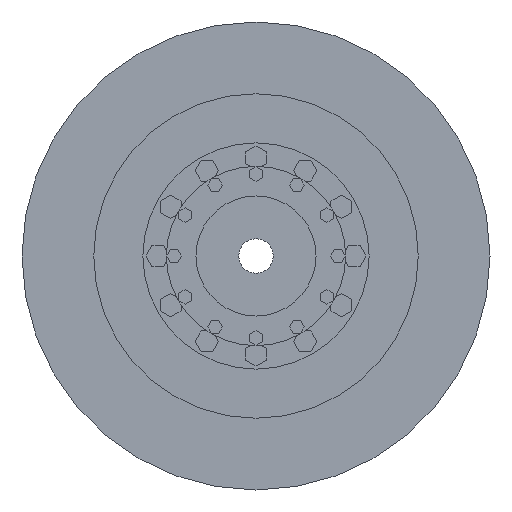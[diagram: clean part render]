
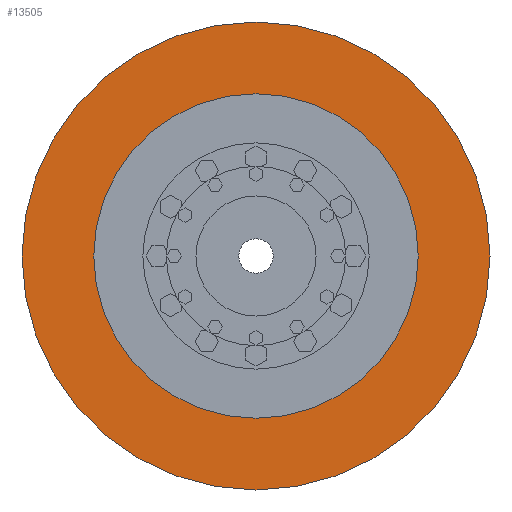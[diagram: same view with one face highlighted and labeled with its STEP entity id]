
A CAD part, left-side view. The second image highlights one B-rep face of the part: STEP entity #13505.
In plain terms, the highlighted planar face has unit normal (-1, 0, 0).
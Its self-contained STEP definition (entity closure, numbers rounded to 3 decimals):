
#13302=CARTESIAN_POINT('',(-37.,0.,0.));
#13303=DIRECTION('',(-1.,0.,0.));
#13304=DIRECTION('',(0.,1.,0.));
#13305=AXIS2_PLACEMENT_3D('',#13302,#13303,#13304);
#13307=CARTESIAN_POINT('',(-37.,0.,0.));
#13308=DIRECTION('',(1.,0.,0.));
#13309=DIRECTION('',(0.,1.,0.));
#13310=AXIS2_PLACEMENT_3D('',#13307,#13308,#13309);
#13312=CARTESIAN_POINT('',(-37.,0.,0.));
#13313=DIRECTION('',(1.,0.,0.));
#13314=DIRECTION('',(0.,1.,0.));
#13315=AXIS2_PLACEMENT_3D('',#13312,#13313,#13314);
#13325=CARTESIAN_POINT('',(-37.,0.,0.));
#13326=DIRECTION('',(-1.,0.,0.));
#13327=DIRECTION('',(0.,1.,0.));
#13328=AXIS2_PLACEMENT_3D('',#13325,#13326,#13327);
#13348=CARTESIAN_POINT('',(-37.,104.,0.));
#13350=VERTEX_POINT('',#13348);
#13360=CARTESIAN_POINT('',(-37.,-104.,0.));
#13362=VERTEX_POINT('',#13360);
#13365=CARTESIAN_POINT('',(-37.,150.,0.));
#13367=VERTEX_POINT('',#13365);
#13369=CARTESIAN_POINT('',(-37.,-150.,0.));
#13371=VERTEX_POINT('',#13369);
#13490=CARTESIAN_POINT('',(-37.,0.,0.));
#13491=DIRECTION('',(1.,0.,0.));
#13492=DIRECTION('',(0.,-1.,0.));
#13493=AXIS2_PLACEMENT_3D('',#13490,#13491,#13492);
#13494=PLANE('',#13493);
#13495=ORIENTED_EDGE('',*,*,#13483,.F.);
#13496=ORIENTED_EDGE('',*,*,#13472,.T.);
#13497=EDGE_LOOP('',(#13495,#13496));
#13498=FACE_OUTER_BOUND('',#13497,.F.);
#13500=ORIENTED_EDGE('',*,*,#13499,.F.);
#13502=ORIENTED_EDGE('',*,*,#13501,.T.);
#13503=EDGE_LOOP('',(#13500,#13502));
#13504=FACE_BOUND('',#13503,.F.);
#13505=ADVANCED_FACE('',(#13498,#13504),#13494,.F.);
#13306=CIRCLE('',#13305,150.);
#13311=CIRCLE('',#13310,150.);
#13316=CIRCLE('',#13315,104.);
#13329=CIRCLE('',#13328,104.);
#13472=EDGE_CURVE('',#13367,#13371,#13311,.T.);
#13483=EDGE_CURVE('',#13367,#13371,#13306,.T.);
#13499=EDGE_CURVE('',#13350,#13362,#13316,.T.);
#13501=EDGE_CURVE('',#13350,#13362,#13329,.T.);
